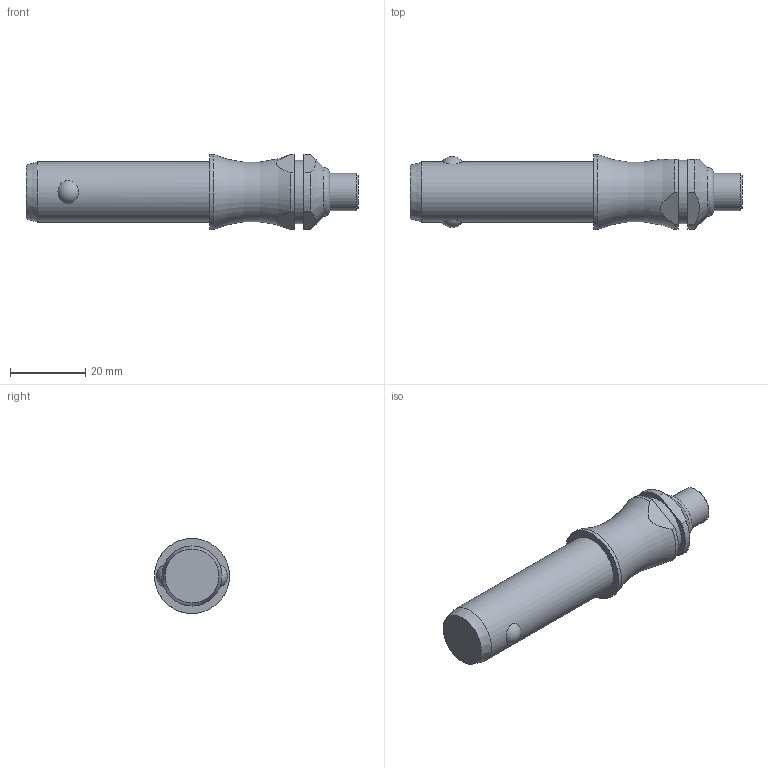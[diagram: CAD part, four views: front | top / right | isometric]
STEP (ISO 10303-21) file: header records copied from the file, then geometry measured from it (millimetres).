
FILE_DESCRIPTION( ( 'STEP AP203' ), '1' );
FILE_NAME( 'C:/Temp/Ganter_Step_05_03_2020/data/3_1/gn113_3/Stainless Steel-Ball lock pin GN 113.3-16-35 (deactivated).stp', '2020-03-12T08:18:51', ( 'License CC BY-ND 4.0' ), ( 'CADENAS' ), ' ', 'PARTsolutions', ' ' );
FILE_SCHEMA( ( 'CONFIG_CONTROL_DESIGN' ) );
Length unit declared in the file: millimetre
Products named in the file (1): _Stainless Steel-Ball lock pin GN 113.3-16-35 (deactivated)
Bounding box: 88.5 x 20 x 20 mm (x, y, z)
Volume: 17801.2 mm3; surface area: 5023.1 mm2
Topology: 1 solids, 1 shells, 28 faces, 60 edges, 39 vertices
Faces by surface type: plane 11, cylinder 10, cone 3, torus 2, sphere 2
Full cylindrical faces by diameter (mm): 10 x1, 16 x1, 17 x1, 20 x1
Entity records: 966 total; most frequent: CARTESIAN_POINT 350, DIRECTION 122, ORIENTED_EDGE 98, AXIS2_PLACEMENT_3D 52, EDGE_CURVE 49, EDGE_LOOP 42, VERTEX_POINT 38, FACE_OUTER_BOUND 34
